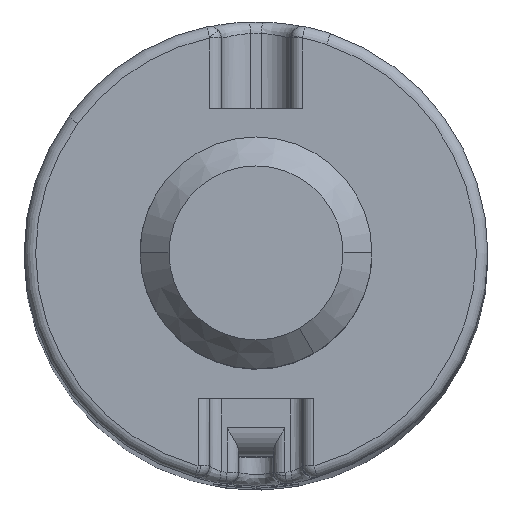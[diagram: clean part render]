
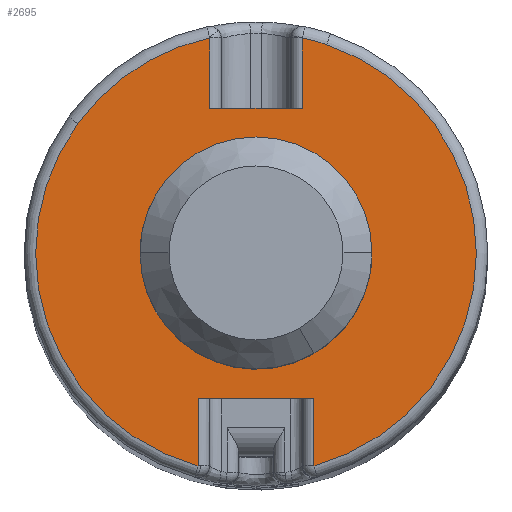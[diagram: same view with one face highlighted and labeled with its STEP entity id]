
A CAD part, top view. The second image highlights one B-rep face of the part: STEP entity #2695.
In plain terms, the highlighted planar face has unit normal (0, 0, 1).
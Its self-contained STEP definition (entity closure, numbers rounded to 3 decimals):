
#2637=AXIS2_PLACEMENT_3D('Plane Axis2P3D',#2634,#2635,#2636) ;
#2641=AXIS2_PLACEMENT_3D('Circle Axis2P3D',#2639,#2640,$) ;
#2648=AXIS2_PLACEMENT_3D('Circle Axis2P3D',#2646,#2647,$) ;
#2655=AXIS2_PLACEMENT_3D('Circle Axis2P3D',#2653,#2654,$) ;
#2660=AXIS2_PLACEMENT_3D('Circle Axis2P3D',#2658,#2659,$) ;
#2667=AXIS2_PLACEMENT_3D('Circle Axis2P3D',#2665,#2666,$) ;
#2674=AXIS2_PLACEMENT_3D('Circle Axis2P3D',#2672,#2673,$) ;
#854=CARTESIAN_POINT('Vertex',(1.,-2.5,24.5)) ;
#857=CARTESIAN_POINT('Line Origine',(0.,-2.5,24.5)) ;
#861=CARTESIAN_POINT('Vertex',(-1.,-2.5,24.5)) ;
#915=CARTESIAN_POINT('Line Origine',(-1.,-0.002,24.5)) ;
#919=CARTESIAN_POINT('Vertex',(-1.,-3.666,24.5)) ;
#1175=CARTESIAN_POINT('Line Origine',(0.,2.5,24.5)) ;
#1179=CARTESIAN_POINT('Vertex',(-0.8,2.5,24.5)) ;
#1181=CARTESIAN_POINT('Vertex',(0.8,2.5,24.5)) ;
#1274=CARTESIAN_POINT('Vertex',(-0.8,3.715,24.5)) ;
#1277=CARTESIAN_POINT('Line Origine',(-0.8,-0.002,24.5)) ;
#1382=CARTESIAN_POINT('Line Origine',(0.8,0.021,24.5)) ;
#1386=CARTESIAN_POINT('Vertex',(0.8,3.715,24.5)) ;
#1460=CARTESIAN_POINT('Line Origine',(1.,-0.002,24.5)) ;
#1464=CARTESIAN_POINT('Vertex',(1.,-3.666,24.5)) ;
#1582=CARTESIAN_POINT('Vertex',(-2.,0.,24.5)) ;
#1598=CARTESIAN_POINT('Vertex',(2.,0.,24.5)) ;
#1602=CARTESIAN_POINT('Control Point',(2.,0.,24.5)) ;
#1603=CARTESIAN_POINT('Control Point',(2.,0.628,24.5)) ;
#1604=CARTESIAN_POINT('Control Point',(1.753,1.257,24.5)) ;
#1605=CARTESIAN_POINT('Control Point',(1.257,1.753,24.5)) ;
#1606=CARTESIAN_POINT('Control Point',(0.,2.247,24.5)) ;
#1607=CARTESIAN_POINT('Control Point',(-1.257,1.753,24.5)) ;
#1608=CARTESIAN_POINT('Control Point',(-1.753,1.257,24.5)) ;
#1609=CARTESIAN_POINT('Control Point',(-2.,0.628,24.5)) ;
#1610=CARTESIAN_POINT('Control Point',(-2.,0.,24.5)) ;
#1637=CARTESIAN_POINT('Control Point',(-2.,0.,24.5)) ;
#1638=CARTESIAN_POINT('Control Point',(-2.,-0.628,24.5)) ;
#1639=CARTESIAN_POINT('Control Point',(-1.753,-1.257,24.5)) ;
#1640=CARTESIAN_POINT('Control Point',(-1.257,-1.753,24.5)) ;
#1641=CARTESIAN_POINT('Control Point',(0.,-2.247,24.5)) ;
#1642=CARTESIAN_POINT('Control Point',(1.257,-1.753,24.5)) ;
#1643=CARTESIAN_POINT('Control Point',(1.753,-1.257,24.5)) ;
#1644=CARTESIAN_POINT('Control Point',(2.,-0.628,24.5)) ;
#1645=CARTESIAN_POINT('Control Point',(2.,0.,24.5)) ;
#2634=CARTESIAN_POINT('Axis2P3D Location',(0.,0.,24.5)) ;
#2639=CARTESIAN_POINT('Axis2P3D Location',(0.,0.,24.5)) ;
#2643=CARTESIAN_POINT('Vertex',(-3.074,2.234,24.5)) ;
#2646=CARTESIAN_POINT('Axis2P3D Location',(0.,0.,24.5)) ;
#2650=CARTESIAN_POINT('Vertex',(-3.8,0.,24.5)) ;
#2653=CARTESIAN_POINT('Axis2P3D Location',(0.,0.,24.5)) ;
#2658=CARTESIAN_POINT('Axis2P3D Location',(0.,0.,24.5)) ;
#2662=CARTESIAN_POINT('Vertex',(3.8,0.,24.5)) ;
#2665=CARTESIAN_POINT('Axis2P3D Location',(0.,0.,24.5)) ;
#2669=CARTESIAN_POINT('Vertex',(1.218,3.6,24.5)) ;
#2672=CARTESIAN_POINT('Axis2P3D Location',(0.,0.,24.5)) ;
#858=DIRECTION('Vector Direction',(1.,0.,0.)) ;
#916=DIRECTION('Vector Direction',(0.,-1.,0.)) ;
#1176=DIRECTION('Vector Direction',(1.,0.,0.)) ;
#1278=DIRECTION('Vector Direction',(0.,1.,0.)) ;
#1383=DIRECTION('Vector Direction',(0.,1.,0.)) ;
#1461=DIRECTION('Vector Direction',(0.,1.,0.)) ;
#2635=DIRECTION('Axis2P3D Direction',(0.,0.,1.)) ;
#2636=DIRECTION('Axis2P3D XDirection',(1.,0.,0.)) ;
#2640=DIRECTION('Axis2P3D Direction',(0.,0.,1.)) ;
#2647=DIRECTION('Axis2P3D Direction',(0.,0.,1.)) ;
#2654=DIRECTION('Axis2P3D Direction',(0.,0.,1.)) ;
#2659=DIRECTION('Axis2P3D Direction',(0.,0.,1.)) ;
#2666=DIRECTION('Axis2P3D Direction',(0.,0.,1.)) ;
#2673=DIRECTION('Axis2P3D Direction',(0.,0.,1.)) ;
#859=VECTOR('Line Direction',#858,1.) ;
#917=VECTOR('Line Direction',#916,1.) ;
#1177=VECTOR('Line Direction',#1176,1.) ;
#1279=VECTOR('Line Direction',#1278,1.) ;
#1384=VECTOR('Line Direction',#1383,1.) ;
#1462=VECTOR('Line Direction',#1461,1.) ;
#2678=ORIENTED_EDGE('',*,*,#1183,.F.) ;
#2679=ORIENTED_EDGE('',*,*,#1281,.F.) ;
#2680=ORIENTED_EDGE('',*,*,#2645,.F.) ;
#2681=ORIENTED_EDGE('',*,*,#2652,.F.) ;
#2682=ORIENTED_EDGE('',*,*,#2657,.F.) ;
#2683=ORIENTED_EDGE('',*,*,#921,.T.) ;
#2684=ORIENTED_EDGE('',*,*,#863,.F.) ;
#2685=ORIENTED_EDGE('',*,*,#1466,.T.) ;
#2686=ORIENTED_EDGE('',*,*,#2664,.T.) ;
#2687=ORIENTED_EDGE('',*,*,#2671,.T.) ;
#2688=ORIENTED_EDGE('',*,*,#2676,.T.) ;
#2689=ORIENTED_EDGE('',*,*,#1388,.T.) ;
#2692=ORIENTED_EDGE('',*,*,#1611,.F.) ;
#2693=ORIENTED_EDGE('',*,*,#1646,.F.) ;
#2694=FACE_BOUND('',#2691,.T.) ;
#2695=ADVANCED_FACE('\X2\96F64EF651E04F554F53\X0\',(#2690,#2694),#2638,.T.) ;
#1601=B_SPLINE_CURVE_WITH_KNOTS('',5,(#1602,#1603,#1604,#1605,#1606,#1607,#1608,#1609,#1610),.UNSPECIFIED.,.F.,.U.,(6,3,6),(-3.142,0.,3.142),.UNSPECIFIED.) ;
#1636=B_SPLINE_CURVE_WITH_KNOTS('',5,(#1637,#1638,#1639,#1640,#1641,#1642,#1643,#1644,#1645),.UNSPECIFIED.,.F.,.U.,(6,3,6),(-3.142,0.,3.142),.UNSPECIFIED.) ;
#2642=CIRCLE('generated circle',#2641,3.8) ;
#2649=CIRCLE('generated circle',#2648,3.8) ;
#2656=CIRCLE('generated circle',#2655,3.8) ;
#2661=CIRCLE('generated circle',#2660,3.8) ;
#2668=CIRCLE('generated circle',#2667,3.8) ;
#2675=CIRCLE('generated circle',#2674,3.8) ;
#863=EDGE_CURVE('',#855,#862,#860,.F.) ;
#921=EDGE_CURVE('',#920,#862,#918,.F.) ;
#1183=EDGE_CURVE('',#1180,#1182,#1178,.T.) ;
#1281=EDGE_CURVE('',#1275,#1180,#1280,.F.) ;
#1388=EDGE_CURVE('',#1387,#1182,#1385,.F.) ;
#1466=EDGE_CURVE('',#855,#1465,#1463,.F.) ;
#1611=EDGE_CURVE('',#1599,#1583,#1601,.T.) ;
#1646=EDGE_CURVE('',#1583,#1599,#1636,.T.) ;
#2645=EDGE_CURVE('',#2644,#1275,#2642,.F.) ;
#2652=EDGE_CURVE('',#2651,#2644,#2649,.F.) ;
#2657=EDGE_CURVE('',#920,#2651,#2656,.F.) ;
#2664=EDGE_CURVE('',#1465,#2663,#2661,.T.) ;
#2671=EDGE_CURVE('',#2663,#2670,#2668,.T.) ;
#2676=EDGE_CURVE('',#2670,#1387,#2675,.T.) ;
#2677=EDGE_LOOP('',(#2678,#2679,#2680,#2681,#2682,#2683,#2684,#2685,#2686,#2687,#2688,#2689)) ;
#2691=EDGE_LOOP('',(#2692,#2693)) ;
#2690=FACE_OUTER_BOUND('',#2677,.T.) ;
#860=LINE('Line',#857,#859) ;
#918=LINE('Line',#915,#917) ;
#1178=LINE('Line',#1175,#1177) ;
#1280=LINE('Line',#1277,#1279) ;
#1385=LINE('Line',#1382,#1384) ;
#1463=LINE('Line',#1460,#1462) ;
#2638=PLANE('Plane',#2637) ;
#855=VERTEX_POINT('',#854) ;
#862=VERTEX_POINT('',#861) ;
#920=VERTEX_POINT('',#919) ;
#1180=VERTEX_POINT('',#1179) ;
#1182=VERTEX_POINT('',#1181) ;
#1275=VERTEX_POINT('',#1274) ;
#1387=VERTEX_POINT('',#1386) ;
#1465=VERTEX_POINT('',#1464) ;
#1583=VERTEX_POINT('',#1582) ;
#1599=VERTEX_POINT('',#1598) ;
#2644=VERTEX_POINT('',#2643) ;
#2651=VERTEX_POINT('',#2650) ;
#2663=VERTEX_POINT('',#2662) ;
#2670=VERTEX_POINT('',#2669) ;
